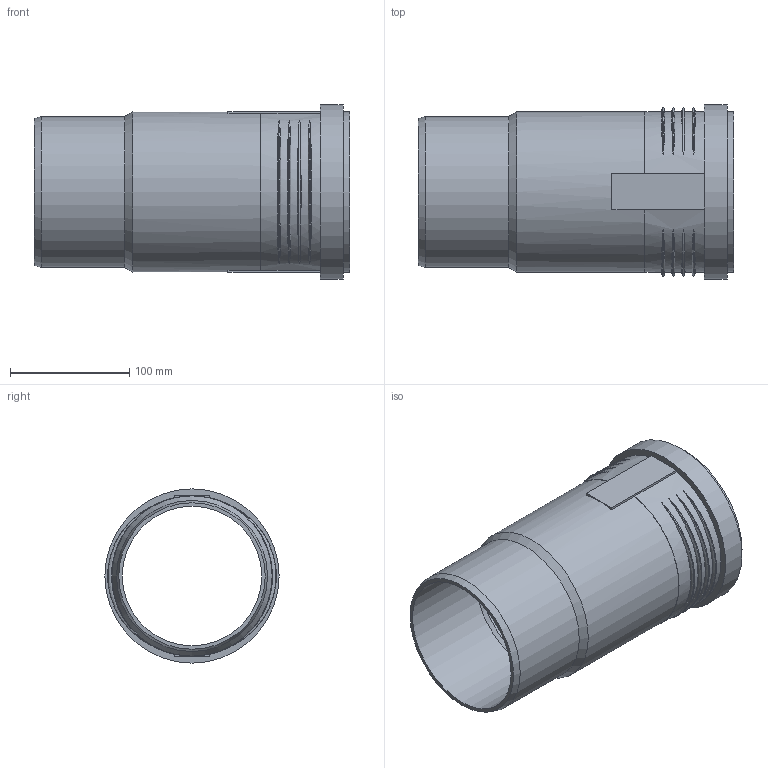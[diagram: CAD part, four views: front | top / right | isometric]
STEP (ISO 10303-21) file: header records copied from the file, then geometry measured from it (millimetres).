
FILE_DESCRIPTION(/* description */ (''),/* implementation_level */ '2;1');
FILE_NAME(/* name */ 'Z:\Geberit\Export\NewStep\390618.stp',/* time_stamp */ '2014-04-02T08:15:40+02:00',/* author */ ('ML'),/* organization */ (''),/* preprocessor_version */ 'ST-DEVELOPER v15.2',/* originating_system */ 'Autodesk Inventor 2014',/* authorisation */ '');
FILE_SCHEMA (('AUTOMOTIVE_DESIGN { 1 0 10303 214 3 1 1 }'));
Length unit declared in the file: millimetre
Products named in the file (1): 390618
Bounding box: 264.5 x 145.9 x 145.9 mm (x, y, z)
Volume: 475023 mm3; surface area: 231159 mm2
Topology: 1 solids, 1 shells, 53 faces, 128 edges, 89 vertices
Faces by surface type: torus 24, plane 16, cylinder 10, cone 3
Full cylindrical faces by diameter (mm): 116.8 x1, 126.4 x3, 134.2 x1, 134.8 x1, 138.1 x1, 145.9 x1
Entity records: 2240 total; most frequent: CARTESIAN_POINT 1010, ORIENTED_EDGE 232, DIRECTION 216, EDGE_CURVE 116, AXIS2_PLACEMENT_3D 94, VERTEX_POINT 88, EDGE_LOOP 78, STYLED_ITEM 54
